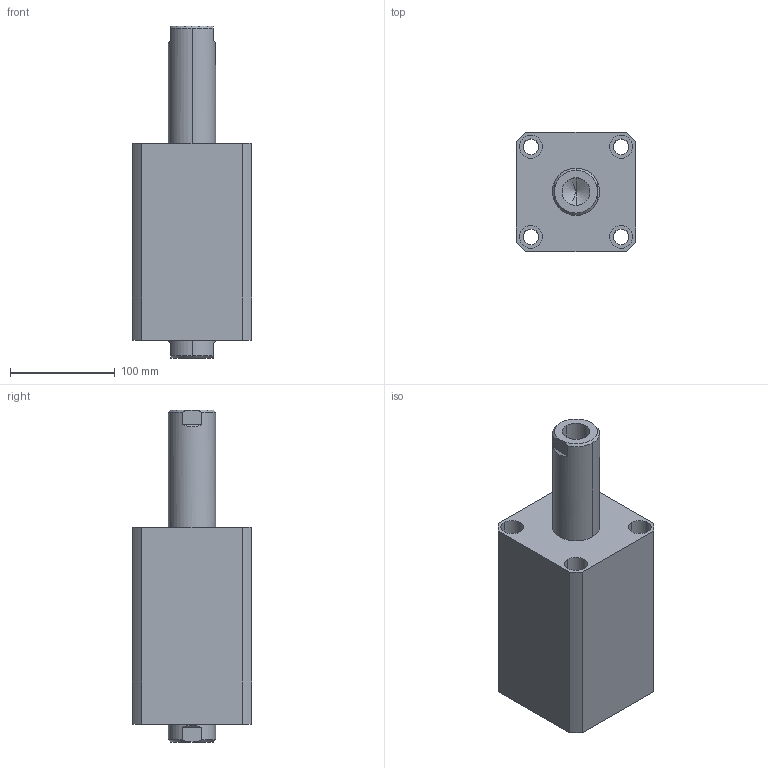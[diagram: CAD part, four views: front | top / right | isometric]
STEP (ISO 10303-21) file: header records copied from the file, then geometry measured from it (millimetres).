
FILE_DESCRIPTION (( 'STEP AP214' ), '1' );
FILE_NAME ('chtb-sw80x95n_asm.STEP', '2018-05-28T00:55:54', ( 'Windows' ), ( 'Microsoft' ), 'SwSTEP 2.0', 'SolidWorks 2015', '' );
FILE_SCHEMA (( 'AUTOMOTIVE_DESIGN' ));
Length unit declared in the file: millimetre
Products named in the file (4): CHTB-SW80X95NBT; CHTB-SD80X95NHSG; CHTB-SD80QG; chtb-sw80x95n_asm
Assembly tree (3 placements, depth 2):
  chtb-sw80x95n_asm
    CHTB-SD80QG
    CHTB-SD80X95NHSG
    CHTB-SW80X95NBT
Bounding box: 114 x 114 x 317 mm (x, y, z)
Volume: 2070201.8 mm3; surface area: 279698.3 mm2
Topology: 3 solids, 3 shells, 208 faces, 550 edges, 365 vertices
Faces by surface type: cylinder 109, plane 42, cone 25, torus 18, bspline 14
Entity records: 15645 total; most frequent: CARTESIAN_POINT 10539, ORIENTED_EDGE 1084, DIRECTION 970, EDGE_CURVE 542, AXIS2_PLACEMENT_3D 407, VERTEX_POINT 365, EDGE_LOOP 249, ADVANCED_FACE 208
